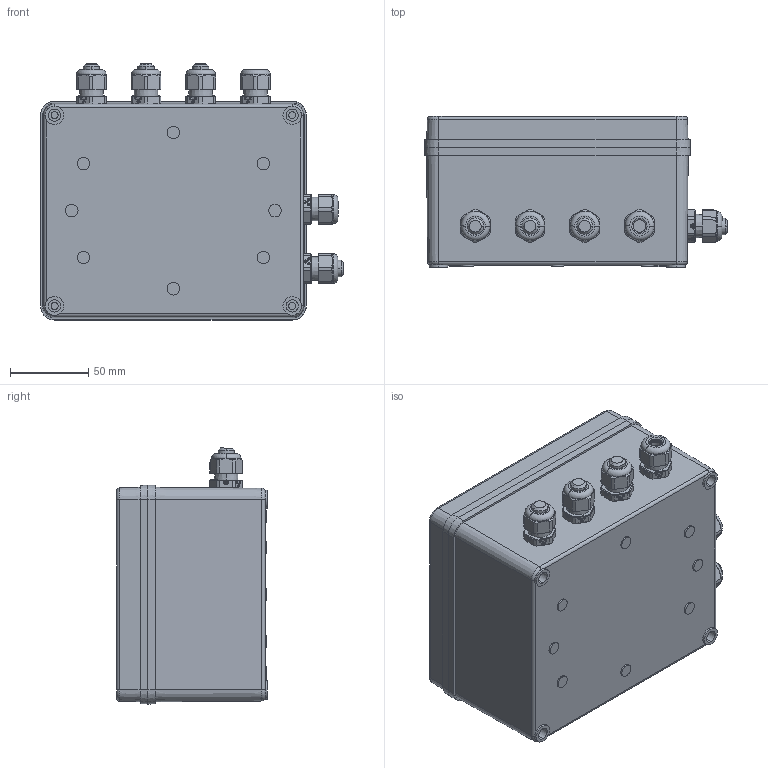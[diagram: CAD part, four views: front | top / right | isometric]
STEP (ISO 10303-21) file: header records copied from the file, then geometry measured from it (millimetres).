
FILE_DESCRIPTION((''),'1');
FILE_NAME('ETLB_housing_PG9.step','2022-03-30T14:13:53',(''),(''),'','','');
FILE_SCHEMA(('AUTOMOTIVE_DESIGN { 1 0 10303 214 1 1 1 1 }'));
Products named in the file (14): ETLB housing_PG9; ETLB cover 01; ETLB part 02; ETLB screw 01; ETLB cable gland 01; ETLB cable gland 02; ETLB seal 01; ETLB nut 01; ETLB cable gland 04; ETLB cable gland 05
Assembly tree (34 placements, depth 3):
  ETLB housing_PG9
    ETLB cover 01
    ETLB part 02
    ETLB screw 01  x4
    ETLB cable gland 01
      ETLB cable gland 02
      ETLB seal 01
      ETLB nut 01
      ETLB cable gland 04
    ETLB cable gland 05
      ETLB cable gland 02
      ETLB seal 01
      ETLB nut 01
    ETLB cable gland 05
      ETLB cable gland 02
      ETLB seal 01
      ETLB nut 01
    ETLB cable gland 01
      ETLB cable gland 02
      ETLB seal 01
      ETLB nut 01
      ETLB cable gland 04
    ETLB cable gland 01
      ETLB cable gland 02
      ETLB seal 01
      ETLB nut 01
      ETLB cable gland 04
    ETLB cable gland 01
      ETLB cable gland 02
      ETLB seal 01
      ETLB nut 01
      ETLB cable gland 04
Bounding box: 193.8 x 96.5 x 163.8 mm (x, y, z)
Volume: 359190.5 mm3; surface area: 249008.7 mm2
Topology: 28 solids, 34 shells, 3751 faces, 9787 edges, 6394 vertices
Faces by surface type: plane 2047, cylinder 1360, cone 196, torus 128, bspline 20
Entity records: 31401 total; most frequent: CARTESIAN_POINT 5873, DIRECTION 5454, ORIENTED_EDGE 5072, EDGE_CURVE 2548, AXIS2_PLACEMENT_3D 1920, VERTEX_POINT 1670, LINE 1614, VECTOR 1614
